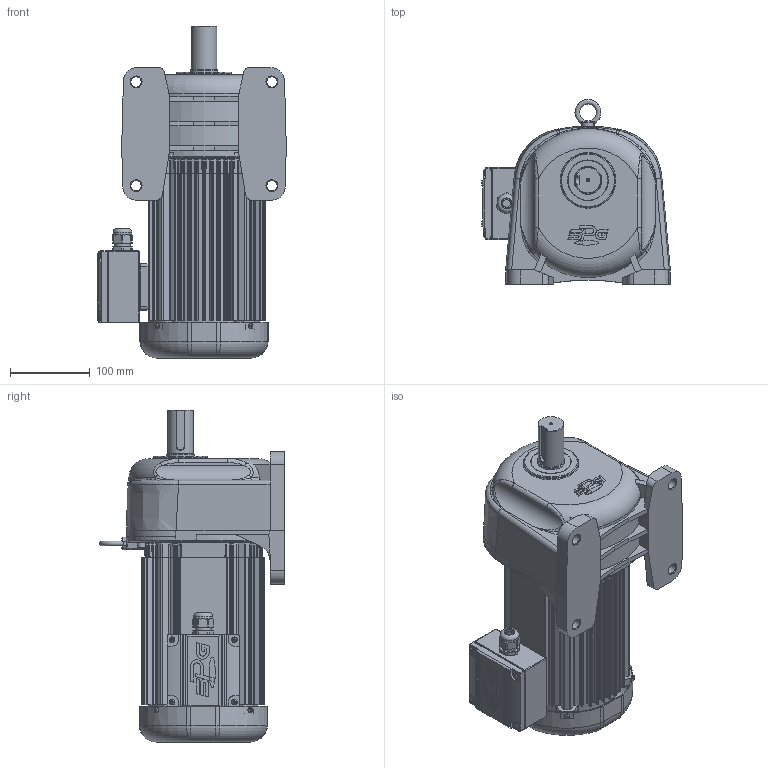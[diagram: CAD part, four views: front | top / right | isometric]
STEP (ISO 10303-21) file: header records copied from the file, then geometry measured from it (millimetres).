
FILE_DESCRIPTION(/* description */ (''),/* implementation_level */ '2;1');
FILE_NAME(/* name */ 'Z:\동력 3D 파일\PAL32-(30~100)-PA(B)075[ ]L (마스터).stp',/* time_stamp */ '2021-08-25T14:32:27+09:00',/* author */ ('jaebok'),/* organization */ (''),/* preprocessor_version */ 'ST-DEVELOPER v18.1',/* originating_system */ 'Autodesk Inventor 2022',/* authorisation */ '');
FILE_SCHEMA (('AUTOMOTIVE_DESIGN { 1 0 10303 214 3 1 1 }'));
Products named in the file (1): 부품38
Bounding box: 236 x 231.28 x 415.5 mm (x, y, z)
Volume: 2675607.5 mm3; surface area: 791053.9 mm2
Topology: 2 solids, 29 shells, 3258 faces, 8276 edges, 4926 vertices
Faces by surface type: plane 1009, cylinder 904, bspline 806, torus 303, cone 128, sphere 108
Full cylindrical faces by diameter (mm): 2 x1, 3.25 x1, 3.5 x4, 3.6 x4, 4 x22, 4.917 x4, 5 x19, 6 x8, 6.647 x1, 6.8 x4, 7 x12, 8 x5, 9.5 x4, 10 x5, 12.5 x1, 13 x4, 15 x1, 18 x1, 20 x2, 20.6 x1, 21 x2, 22 x1, 23.6 x1, 25 x1, 28 x1, 30 x1, 32 x2, 34.6 x1, 35 x5, 40 x1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
Entity records: 133029 total; most frequent: CARTESIAN_POINT 56465, ORIENTED_EDGE 16082, DIRECTION 14337, EDGE_CURVE 8041, AXIS2_PLACEMENT_3D 5777, VERTEX_POINT 4926, EDGE_LOOP 3458, FACE_OUTER_BOUND 3258
